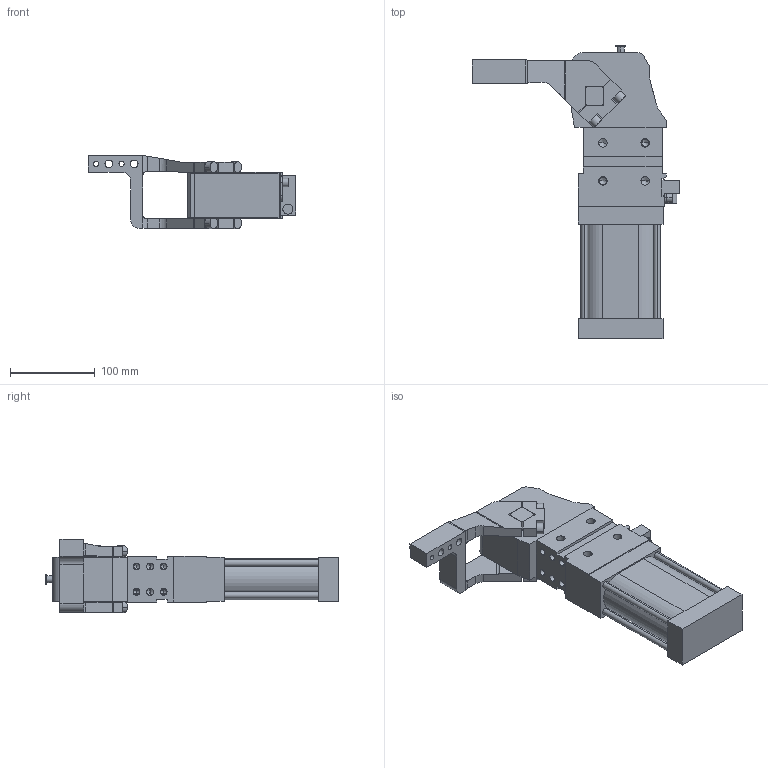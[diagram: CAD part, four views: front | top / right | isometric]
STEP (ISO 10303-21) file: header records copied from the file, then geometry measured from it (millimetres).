
FILE_DESCRIPTION (( 'STEP AP214' ), '1' );
FILE_NAME ('cpl63v1si1g_135.STEP', '2023-01-26T10:23:22', ( '' ), ( '' ), 'SwSTEP 2.0', 'SolidWorks 2022', '' );
FILE_SCHEMA (( 'AUTOMOTIVE_DESIGN' ));
Length unit declared in the file: millimetre
Products named in the file (4): blocchetto_VEP_0; leva_sx_offset_15_cpl63; cpl63v1si1g_135; meccanica_cpl_63
Assembly tree (3 placements, depth 2):
  cpl63v1si1g_135
    meccanica_cpl_63
    blocchetto_VEP_0
    leva_sx_offset_15_cpl63
Bounding box: 244.5 x 347 x 86.5 mm (x, y, z)
Volume: 1787141.3 mm3; surface area: 189086.2 mm2
Topology: 3 solids, 3 shells, 396 faces, 1037 edges, 639 vertices
Faces by surface type: plane 198, cylinder 148, cone 50
Entity records: 13449 total; most frequent: CARTESIAN_POINT 2134, DIRECTION 2109, ORIENTED_EDGE 1982, EDGE_CURVE 991, AXIS2_PLACEMENT_3D 728, VECTOR 653, LINE 653, VERTEX_POINT 639
